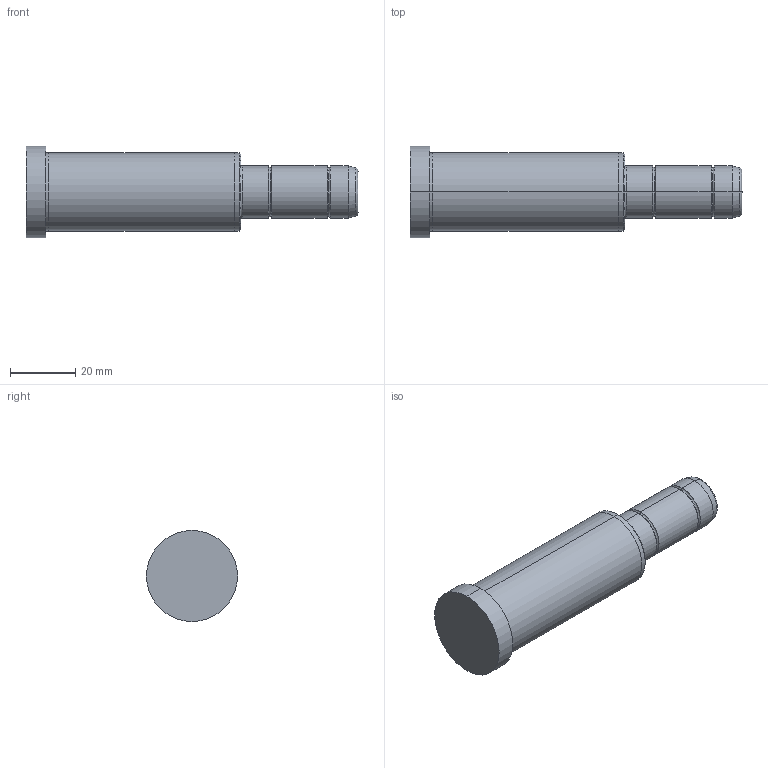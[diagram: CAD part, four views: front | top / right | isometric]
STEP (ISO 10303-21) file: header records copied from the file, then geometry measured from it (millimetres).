
FILE_DESCRIPTION( ( 'STEP AP203' ), '1' );
FILE_NAME( 'D:/Delta 3 D/D02/16/D02 - 16x66x36.step', '2003-01-04T13:08:42', ( ' ' ), ( ' ' ), 'XStep 1.0', ' ', ' ' );
FILE_SCHEMA( ( 'CONFIG_CONTROL_DESIGN' ) );
Length unit declared in the file: metre
Products named in the file (1): 1
Bounding box: 102 x 28 x 28 mm (x, y, z)
Volume: 38010.5 mm3; surface area: 8064.5 mm2
Topology: 1 solids, 1 shells, 36 faces, 70 edges, 40 vertices
Faces by surface type: bspline 18, revolution 18
Entity records: 1127 total; most frequent: CARTESIAN_POINT 417, ORIENTED_EDGE 140, DIRECTION 118, EDGE_CURVE 70, AXIS2_PLACEMENT_3D 41, EDGE_LOOP 40, VERTEX_POINT 40, CIRCLE 40
